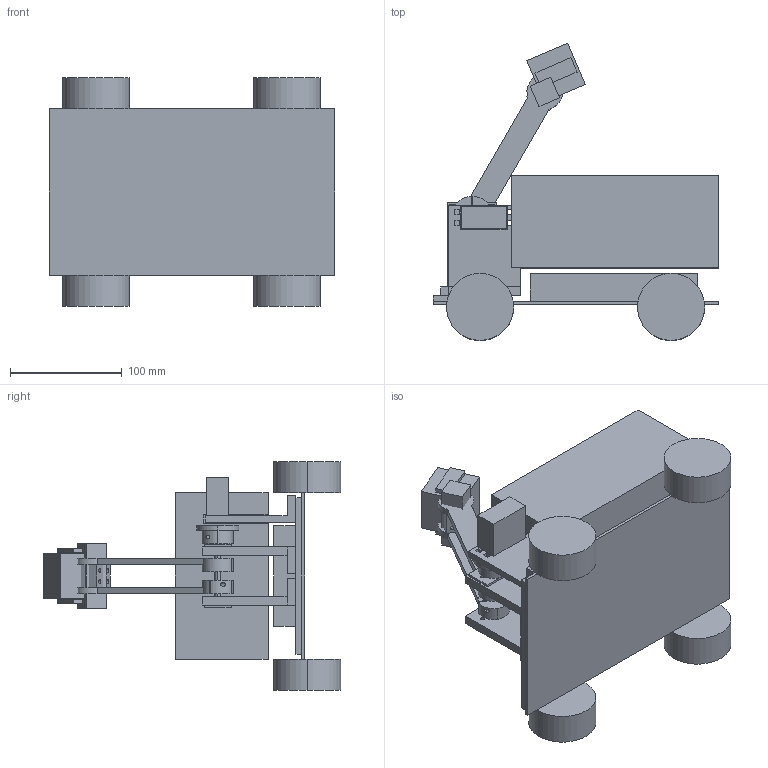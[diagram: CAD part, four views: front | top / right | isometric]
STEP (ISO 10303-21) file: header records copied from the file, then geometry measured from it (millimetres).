
FILE_DESCRIPTION (( 'STEP AP203' ), '1' );
FILE_NAME ('FlipArm_V2_deposit.STEP', '2026-09-18T10:20:33', ( '15300530775@163.com' ), ( '' ), 'SwSTEP 2.0', 'SolidWorks 2026', '' );
FILE_SCHEMA (( 'CONFIG_CONTROL_DESIGN' ));
Length unit declared in the file: millimetre
Products named in the file (18): V2_REF_gripper_body; V2_REF_wheel_D60; V2_REF_625ZZ; V2_REF_chassis_255p8x149; V2_07_servo_stand; V2_REF_electronics_envelope; V2_REF_5mm_shaft; V2_06_horn_coupler; V2_REF_gripper_finger; V2_03_bearing_retainer; V2_REF_block40; V2_bin_180x143x80; V2_04_arm_plate; FlipArm_V2_deposit; V2_05_wrist_adapter; V2_01_base; V2_REF_MG995_envelope; V2_02_bearing_tower
Assembly tree (25 placements, depth 2):
  FlipArm_V2_deposit
    V2_REF_chassis_255p8x149
    V2_REF_wheel_D60  x4
    V2_REF_electronics_envelope
    V2_bin_180x143x80
    V2_01_base
    V2_02_bearing_tower  x2
    V2_03_bearing_retainer  x2
    V2_REF_625ZZ  x2
    V2_REF_5mm_shaft
    V2_04_arm_plate  x2
    V2_05_wrist_adapter
    V2_06_horn_coupler
    V2_07_servo_stand
    V2_REF_MG995_envelope
    V2_REF_gripper_body
    V2_REF_gripper_finger  x2
    V2_REF_block40
Bounding box: 255.8 x 266.15 x 205 mm (x, y, z)
Volume: 1361695.2 mm3; surface area: 447123.1 mm2
Topology: 25 solids, 25 shells, 327 faces, 846 edges, 564 vertices
Faces by surface type: plane 192, cylinder 135
Entity records: 10820 total; most frequent: CARTESIAN_POINT 2266, ORIENTED_EDGE 1308, DIRECTION 1300, EDGE_CURVE 654, LINE 456, VECTOR 456, VERTEX_POINT 436, AXIS2_PLACEMENT_3D 422
